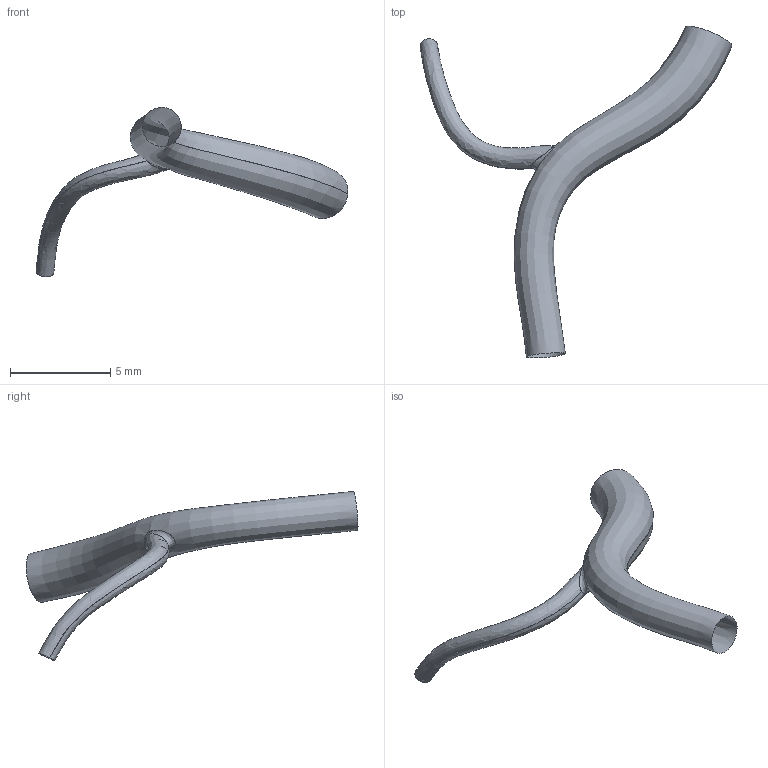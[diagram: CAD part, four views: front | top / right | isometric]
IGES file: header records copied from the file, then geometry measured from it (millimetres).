
Global section: file name: C:\Documents and Settings\Administrator\Desktop\FDA-Pig\Domestic RCA\Pig_000137\avc.ed.igs; native system: Rhinoceros ( May 19 2006 ); preprocessor: Trout Lake IGES 012 May 19 2006; date: 111205.185757; units: centimetre
Bounding box: 15.53 x 16.54 x 8.43 mm (x, y, z)
Surface area: 172.7 mm2 (no closed solid volume)
Topology: 0 solids, 0 shells, 3 faces, 33 edges, 30 vertices
Faces by surface type: bspline 3
